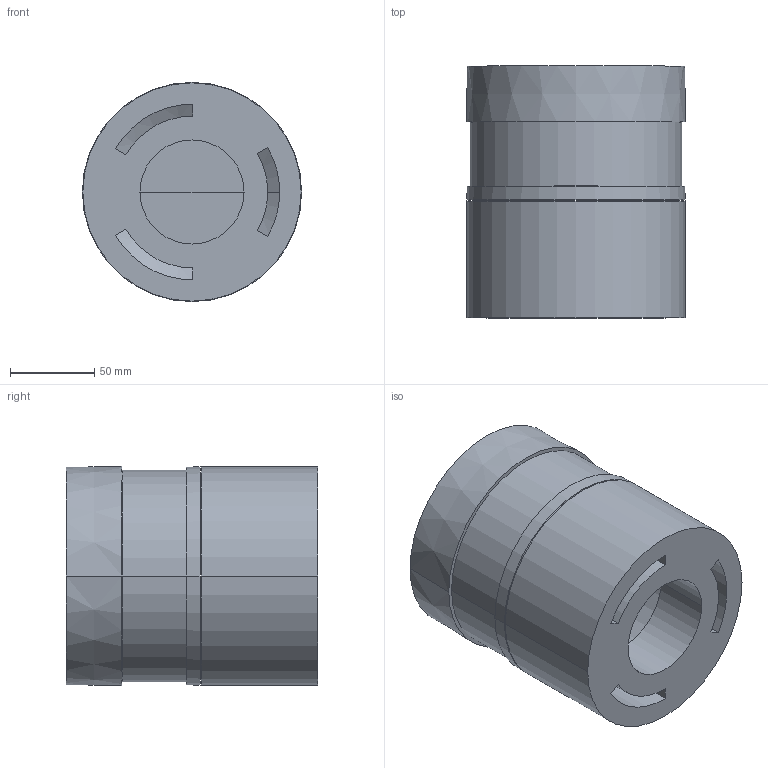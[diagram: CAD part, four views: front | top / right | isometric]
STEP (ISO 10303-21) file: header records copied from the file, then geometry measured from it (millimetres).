
FILE_DESCRIPTION((''),'2;1');
FILE_NAME('PRT0001_SW0003','2025-07-02T08:37:48',('Piccioli'),(''),'CREO PARAMETRIC BY PTC INC, 2025010','CREO PARAMETRIC BY PTC INC, 2025010','');
FILE_SCHEMA(('CONFIG_CONTROL_DESIGN'));
Length unit declared in the file: millimetre
Products named in the file (1): PRT0001_SW0003
Bounding box: 129.72 x 149.02 x 129.72 mm (x, y, z)
Surface area: 168887.4 mm2 (no closed solid volume)
Topology: 0 solids, 5 shells, 44 faces, 110 edges, 70 vertices
Faces by surface type: cone 18, cylinder 14, plane 12
Entity records: 1344 total; most frequent: DIRECTION 250, CARTESIAN_POINT 220, ORIENTED_EDGE 196, EDGE_CURVE 106, AXIS2_PLACEMENT_3D 100, VERTEX_POINT 70, EDGE_LOOP 56, CIRCLE 56
